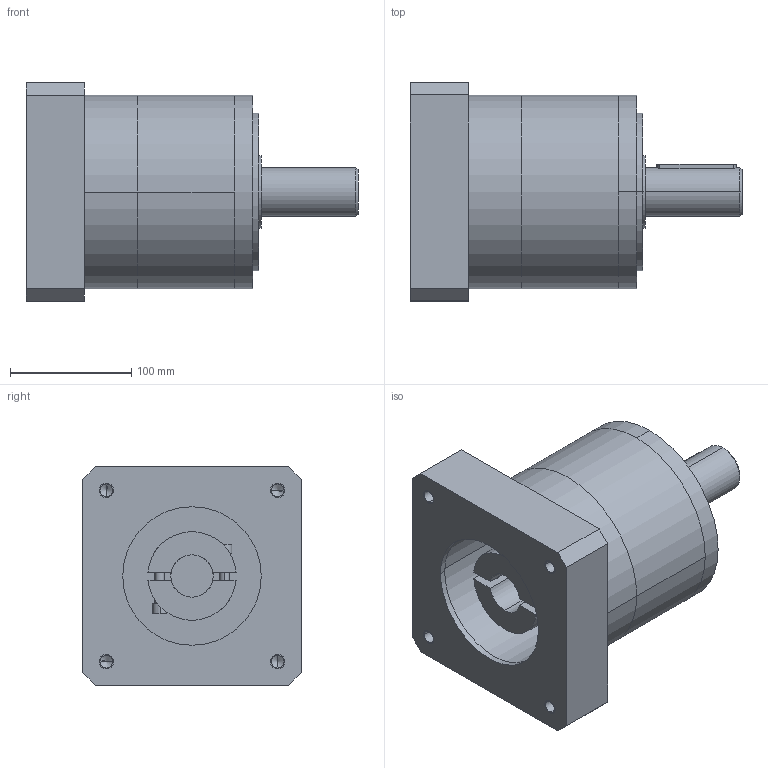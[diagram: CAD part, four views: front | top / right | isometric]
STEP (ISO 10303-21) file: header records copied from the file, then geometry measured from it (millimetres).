
FILE_DESCRIPTION((''),'2;1');
FILE_NAME('PL160L1_ASM','2015-10-31T',('Administrator'),(''),'PRO/ENGINEER BY PARAMETRIC TECHNOLOGY CORPORATION, 2010280','PRO/ENGINEER BY PARAMETRIC TECHNOLOGY CORPORATION, 2010280','');
FILE_SCHEMA(('CONFIG_CONTROL_DESIGN'));
Length unit declared in the file: millimetre
Products named in the file (6): PL160ZHU; XIANTIL1; LIANZHUQI; LUOXI; PRT0002; PL160L1_ASM
Assembly tree (6 placements, depth 2):
  PL160L1_ASM
    PL160ZHU
    XIANTIL1
    LIANZHUQI
    LUOXI  x2
    PRT0002
Bounding box: 274 x 180 x 180 mm (x, y, z)
Volume: 3641103.6 mm3; surface area: 324995.2 mm2
Topology: 6 solids, 19 shells, 163 faces, 402 edges, 265 vertices
Faces by surface type: cylinder 84, plane 67, cone 12
Entity records: 4824 total; most frequent: CARTESIAN_POINT 975, DIRECTION 864, ORIENTED_EDGE 668, EDGE_CURVE 362, AXIS2_PLACEMENT_3D 349, VERTEX_POINT 245, EDGE_LOOP 187, CIRCLE 182
